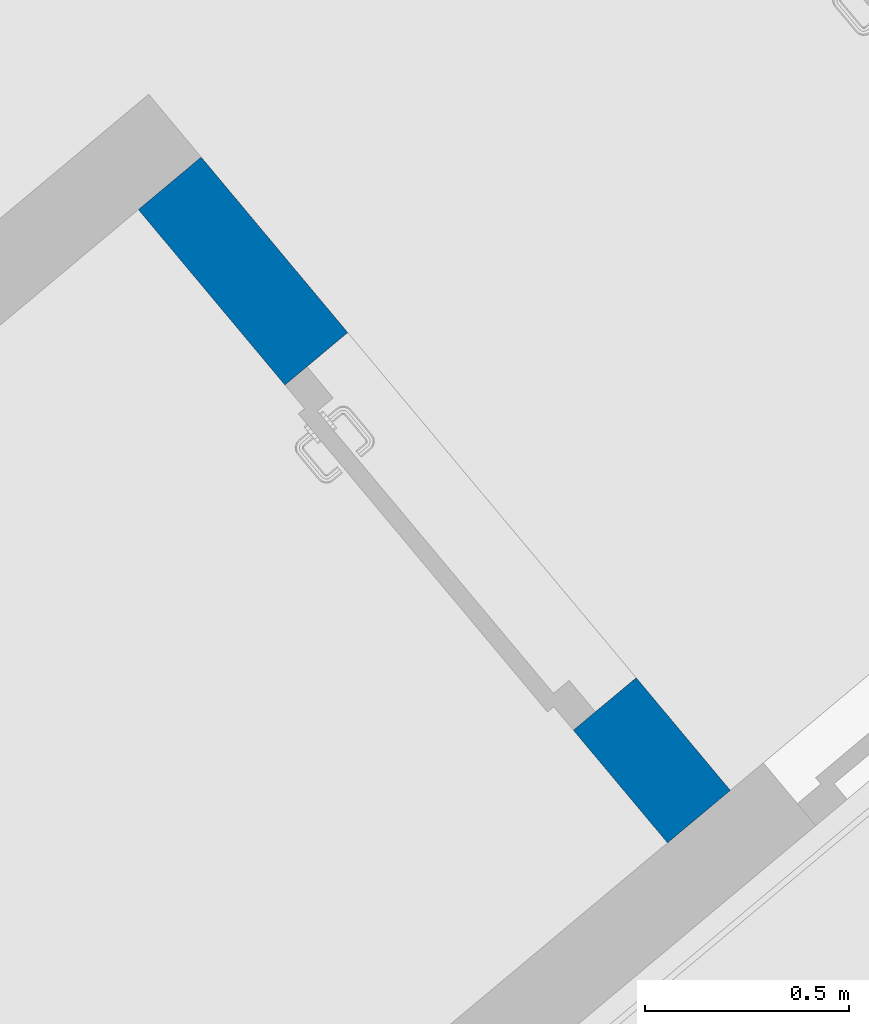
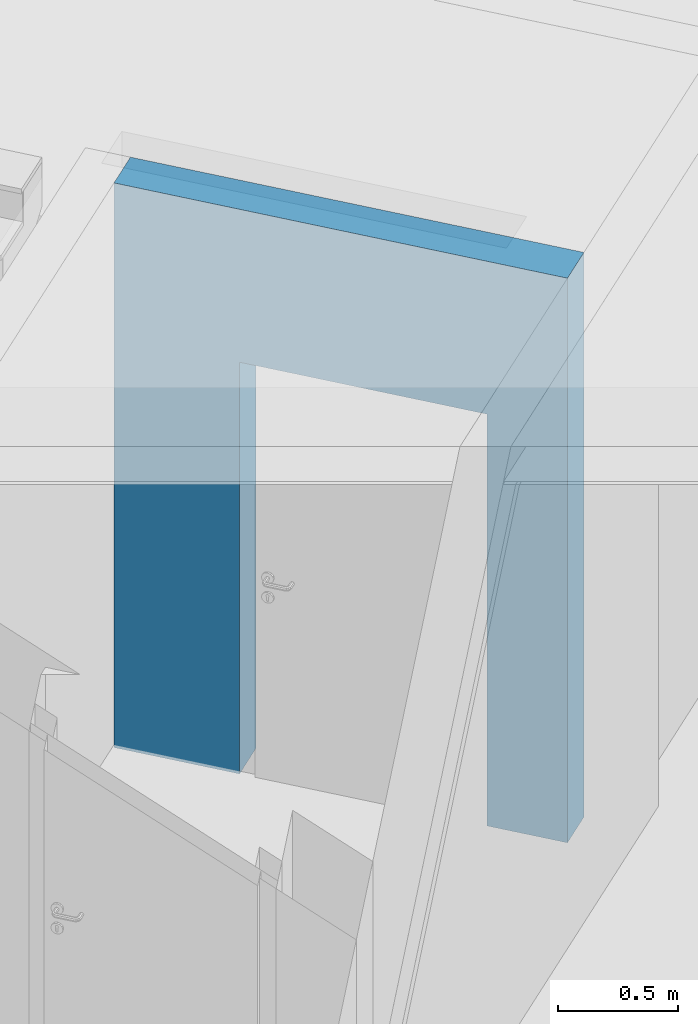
# One storey, part 2 of 14: 1 wall, 1 opening.
"""IFC4 building model written with IfcOpenShell, lengths in metres."""

from ifc_helpers import new_model, entity, si_unit, converted_unit, derived_unit, direction, frame, origin_with_axes, place, context, subcontext, project, spatial, polygons, material, type_object, element, save


model = new_model("IFC4")

# Units and contexts
model_context = context("Model", 3, precision=1e-05, world=origin_with_axes(), true_north=direction((0.0, 1.0)))
body_context = subcontext(model_context, "Body", "Model", "MODEL_VIEW")
ifc_project = project(units=[si_unit("LENGTHUNIT", "METRE"), si_unit("AREAUNIT", "SQUARE_METRE"), si_unit("VOLUMEUNIT", "CUBIC_METRE"), converted_unit("PLANEANGLEUNIT", "DEGREE", entity("IfcPlaneAngleMeasure", 0.0174532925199), si_unit("PLANEANGLEUNIT", "RADIAN"), dimensions=[0, 0, 0, 0, 0, 0, 0]), converted_unit("TIMEUNIT", "Year", entity("IfcTimeMeasure", 31556926.0), si_unit("TIMEUNIT", "SECOND"), dimensions=[0, 0, 1, 0, 0, 0, 0]), si_unit("MASSUNIT", "GRAM", prefix="KILO"), si_unit("THERMODYNAMICTEMPERATUREUNIT", "DEGREE_CELSIUS"), si_unit("LUMINOUSINTENSITYUNIT", "LUMEN"), si_unit("ENERGYUNIT", "JOULE", prefix="MEGA"), derived_unit("THERMALCONDUCTANCEUNIT", [(si_unit("POWERUNIT", "WATT"), 1), (si_unit("LENGTHUNIT", "METRE"), -1), (si_unit("THERMODYNAMICTEMPERATUREUNIT", "KELVIN"), -1)]), derived_unit("SPECIFICHEATCAPACITYUNIT", [(si_unit("ENERGYUNIT", "JOULE"), 1), (si_unit("MASSUNIT", "GRAM", prefix="KILO"), -1), (si_unit("THERMODYNAMICTEMPERATUREUNIT", "KELVIN"), -1)]), derived_unit("MASSDENSITYUNIT", [(si_unit("MASSUNIT", "GRAM", prefix="KILO"), 1), (si_unit("VOLUMEUNIT", "CUBIC_METRE"), -1)])], contexts=[model_context])

# Site, building, storey
site_placement = place(None, frame((-0.00153261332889, -0.00661245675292, 0.0), z_axis=(0.0, 0.0, 1.0), x_axis=(1.0, 0.0, 0.0)))
site = spatial("IfcSite", under=ifc_project, at=site_placement, Name="Gelände", CompositionType="ELEMENT")
building_placement = place(site_placement, origin_with_axes())
building = spatial("IfcBuilding", under=site, at=building_placement, Name="Gebäude", CompositionType="ELEMENT")
storey_placement = place(building_placement, frame((0.0, 0.0, -3.3), z_axis=(0.0, 0.0, 1.0), x_axis=(1.0, 0.0, 0.0)))
storey = spatial("IfcBuildingStorey", under=building, at=storey_placement, Name="UG1", CompositionType="ELEMENT", Elevation=-3.3)

# Wall, opening
ifc_material = material(Name="Stahlbeton Wand")
wall_type = type_object("IfcWallType", Name="Stahlbeton Wand 200", PredefinedType="NOTDEFINED")
wall_placement = place(storey_placement, frame((0.640173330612, 22.6708037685, 0.0), z_axis=(0.0, 0.0, 1.0), x_axis=(0.641209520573, -0.767365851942, 0.0)))
wall = element("IfcWall", 1, at=wall_placement, inside=storey, type_object=wall_type, material=ifc_material, Name="Wand-005", PredefinedType="NOTDEFINED", context=body_context, shape_type="Tessellation", body=[
    polygons([(0.558899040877, 0.2, 2.1), (0.558899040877, 0.2, 0.015), (0.558899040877, 0.2, 0.0), (0.0, 0.2, 0.0), (0.0, 0.2, 2.88), (2.01779808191, 0.2, 2.88), (2.01779808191, 0.2, 0.0), (1.65889904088, 0.2, 0.0), (1.65889904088, 0.2, 0.015), (1.65889904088, 0.2, 2.1), (0.558899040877, 0.0, 2.1), (0.558899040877, 0.0, 0.015), (0.558899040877, 0.0, 0.0), (0.0, 0.0, 0.0), (0.0, 0.0, 2.88), (2.01779808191, 0.0, 2.88), (2.01779808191, 0.0, 0.0), (1.65889904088, 0.0, 0.0), (1.65889904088, 0.0, 0.015), (1.65889904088, 0.0, 2.1)], [[[1, 2, 3, 4, 5, 6, 7, 8, 9, 10]], [[2, 1, 11, 12]], [[2, 12, 13, 3]], [[3, 13, 14, 4]], [[14, 15, 5, 4]], [[15, 16, 6, 5]], [[17, 7, 6, 16]], [[18, 8, 7, 17]], [[19, 9, 8, 18]], [[10, 9, 19, 20]], [[1, 10, 20, 11]], [[20, 19, 18, 17, 16, 15, 14, 13, 12, 11]]], closed=True),
])
opening_placement = place(wall_placement, frame((1.10889904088, 0.0, 0.0), z_axis=(0.0, 0.0, 1.0), x_axis=(1.0, 0.0, 0.0)))
element("IfcOpeningElement", 2, at=opening_placement, cuts=wall, Name="Tür-001", context=body_context, identifier="Reference", shape_type="Tessellation", body=[
    polygons([(0.55, 1.29225044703, 2.1), (0.55, 1.29225044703, 0.0), (-0.55, 1.29225044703, 0.0), (-0.55, 1.29225044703, 2.1), (0.55, -1.09225044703, 2.1), (0.55, -1.09225044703, 0.0), (-0.55, -1.09225044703, 0.0), (-0.55, -1.09225044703, 2.1)], [[[1, 2, 3, 4]], [[5, 6, 2, 1]], [[6, 7, 3, 2]], [[7, 8, 4, 3]], [[8, 5, 1, 4]], [[7, 6, 5, 8]]], closed=True),
])

save(model, "model.ifc")
